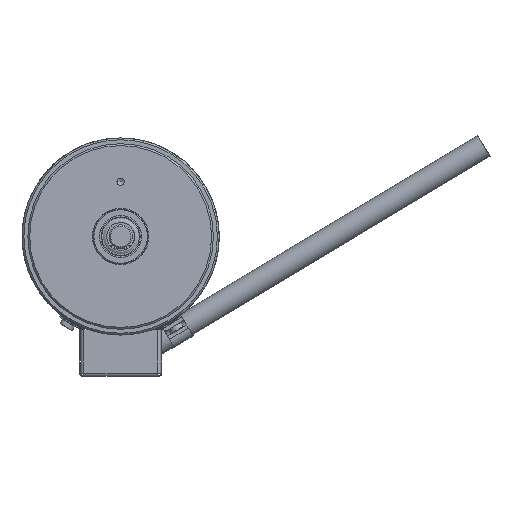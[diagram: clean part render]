
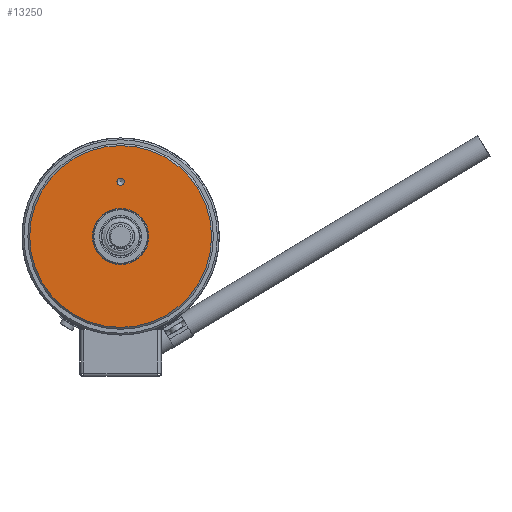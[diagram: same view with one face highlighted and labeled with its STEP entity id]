
A CAD part, left-side view. The second image highlights one B-rep face of the part: STEP entity #13250.
In plain terms, the highlighted planar face has unit normal (-1, 0, 0).
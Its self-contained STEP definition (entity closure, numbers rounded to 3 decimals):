
#3333=PLANE('',#18397);
#3859=ORIENTED_EDGE('',*,*,#7667,.T.);
#3860=ORIENTED_EDGE('',*,*,#7668,.T.);
#3861=ORIENTED_EDGE('',*,*,#7666,.F.);
#7666=EDGE_CURVE('',#9570,#9570,#10875,.T.);
#7667=EDGE_CURVE('',#9571,#9571,#10876,.T.);
#7668=EDGE_CURVE('',#9572,#9572,#10877,.T.);
#9570=VERTEX_POINT('',#22708);
#9571=VERTEX_POINT('',#22711);
#9572=VERTEX_POINT('',#22713);
#10875=CIRCLE('',#18396,3.85);
#10876=CIRCLE('',#18398,0.5);
#10877=CIRCLE('',#18399,12.45);
#11146=EDGE_LOOP('',(#3859));
#11147=EDGE_LOOP('',(#3860));
#11148=EDGE_LOOP('',(#3861));
#12133=FACE_BOUND('',#11146,.T.);
#12134=FACE_BOUND('',#11147,.T.);
#12135=FACE_BOUND('',#11148,.T.);
#13250=ADVANCED_FACE('',(#12133,#12134,#12135),#3333,.T.);
#18396=AXIS2_PLACEMENT_3D('',#22707,#19390,#19391);
#18397=AXIS2_PLACEMENT_3D('',#22709,#19392,#19393);
#18398=AXIS2_PLACEMENT_3D('',#22710,#19394,#19395);
#18399=AXIS2_PLACEMENT_3D('',#22712,#19396,#19397);
#19390=DIRECTION('',(-1.,0.,0.));
#19391=DIRECTION('',(0.,0.,1.));
#19392=DIRECTION('',(-1.,0.,0.));
#19393=DIRECTION('',(0.,0.,1.));
#19394=DIRECTION('',(1.,0.,0.));
#19395=DIRECTION('',(0.,0.,1.));
#19396=DIRECTION('',(-1.,0.,0.));
#19397=DIRECTION('',(0.,0.,1.));
#22707=CARTESIAN_POINT('',(0.,0.,0.));
#22708=CARTESIAN_POINT('',(0.,0.,3.85));
#22709=CARTESIAN_POINT('',(0.,3.85,0.));
#22710=CARTESIAN_POINT('',(0.,0.,7.5));
#22711=CARTESIAN_POINT('',(0.,0.,8.));
#22712=CARTESIAN_POINT('',(0.,0.,0.));
#22713=CARTESIAN_POINT('',(0.,0.,12.45));
